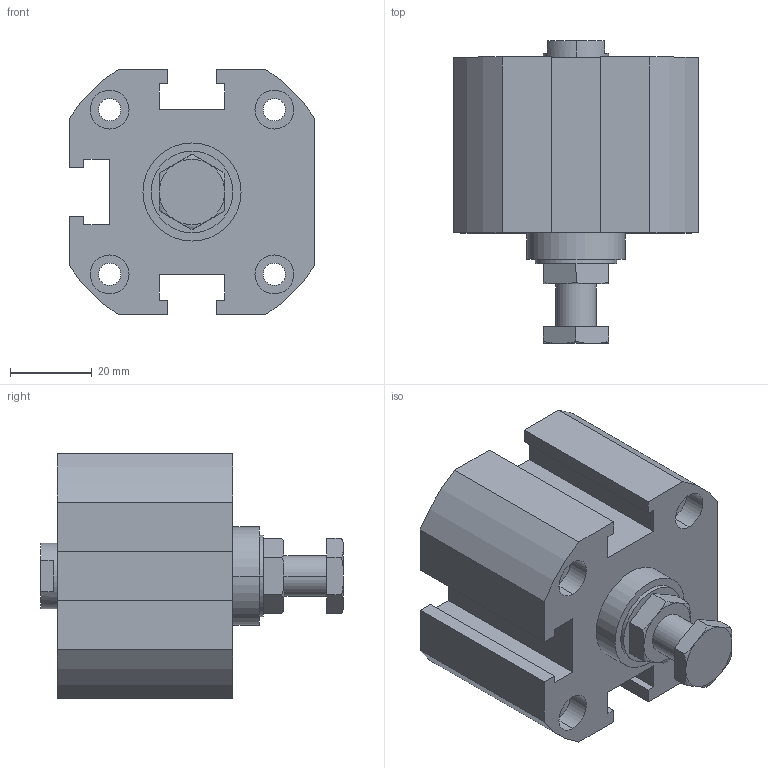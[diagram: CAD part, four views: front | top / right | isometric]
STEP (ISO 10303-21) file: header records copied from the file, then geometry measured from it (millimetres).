
FILE_DESCRIPTION (( 'STEP AP203' ), '1' );
FILE_NAME ('XGA2-40-10.STEP', '2016-05-24T02:40:36', ( '' ), ( '' ), 'SwSTEP 2.0', 'SolidWorks 2014', '' );
FILE_SCHEMA (( 'CONFIG_CONTROL_DESIGN' ));
Length unit declared in the file: millimetre
Products named in the file (3): XGA2-40-10; X#A2-40-H; XG#2-40-10
Assembly tree (2 placements, depth 2):
  XGA2-40-10
    XG#2-40-10
    X#A2-40-H
Bounding box: 60 x 74 x 60 mm (x, y, z)
Volume: 124045.5 mm3; surface area: 25952.8 mm2
Topology: 2 solids, 2 shells, 150 faces, 361 edges, 231 vertices
Faces by surface type: plane 68, cylinder 60, torus 12, cone 10
Entity records: 4852 total; most frequent: CARTESIAN_POINT 973, DIRECTION 785, ORIENTED_EDGE 710, EDGE_CURVE 355, AXIS2_PLACEMENT_3D 299, VERTEX_POINT 231, LINE 187, VECTOR 187
